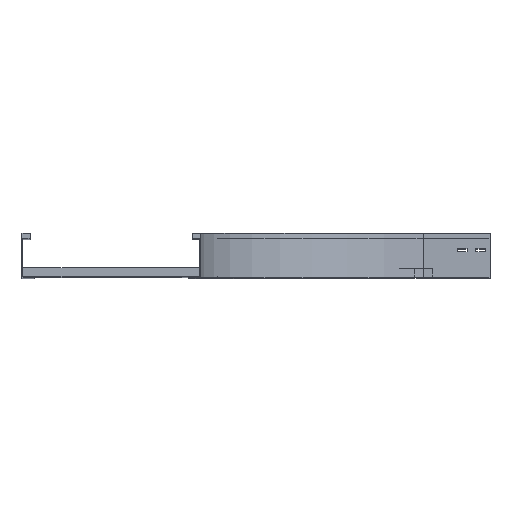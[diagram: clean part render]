
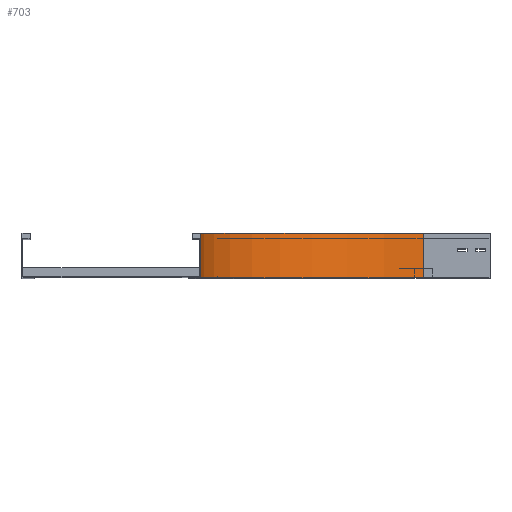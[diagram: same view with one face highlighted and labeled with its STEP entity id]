
A CAD part, top view. The second image highlights one B-rep face of the part: STEP entity #703.
In plain terms, the highlighted cylindrical face has radius 500 mm (diameter 1000 mm), a partial arc.
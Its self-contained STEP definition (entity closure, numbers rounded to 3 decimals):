
#172 = DIRECTION ( 'NONE',  ( 0., 0., -1. ) ) ;
#349 = ORIENTED_EDGE ( 'NONE', *, *, #3204, .T. ) ;
#359 = ORIENTED_EDGE ( 'NONE', *, *, #416, .F. ) ;
#416 = EDGE_CURVE ( 'NONE', #739, #1481, #3450, .T. ) ;
#577 = AXIS2_PLACEMENT_3D ( 'NONE', #1445, #3773, #172 ) ;
#703 = ADVANCED_FACE ( 'NONE', ( #3150 ), #1836, .F. ) ;
#739 = VERTEX_POINT ( 'NONE', #2826 ) ;
#792 = CARTESIAN_POINT ( 'NONE',  ( 500., 0., -150. ) ) ;
#805 = VECTOR ( 'NONE', #2772, 1000. ) ;
#810 = CARTESIAN_POINT ( 'NONE',  ( 500., 0., -650. ) ) ;
#1024 = ORIENTED_EDGE ( 'NONE', *, *, #1710, .T. ) ;
#1073 = CIRCLE ( 'NONE', #3847, 500. ) ;
#1083 = DIRECTION ( 'NONE',  ( 0., 1., 0. ) ) ;
#1146 = CIRCLE ( 'NONE', #3585, 500. ) ;
#1431 = CARTESIAN_POINT ( 'NONE',  ( 500., 0., -650. ) ) ;
#1445 = CARTESIAN_POINT ( 'NONE',  ( 500., 0., -150. ) ) ;
#1481 = VERTEX_POINT ( 'NONE', #2817 ) ;
#1710 = EDGE_CURVE ( 'NONE', #739, #3349, #1146, .T. ) ;
#1836 = CYLINDRICAL_SURFACE ( 'NONE', #577, 500. ) ;
#1908 = VERTEX_POINT ( 'NONE', #2558 ) ;
#2034 = DIRECTION ( 'NONE',  ( 0., -1., 0. ) ) ;
#2367 = DIRECTION ( 'NONE',  ( -1., 0., 0. ) ) ;
#2422 = VECTOR ( 'NONE', #1083, 1000. ) ;
#2503 = ORIENTED_EDGE ( 'NONE', *, *, #2740, .F. ) ;
#2558 = CARTESIAN_POINT ( 'NONE',  ( 500., 100., -650. ) ) ;
#2697 = CARTESIAN_POINT ( 'NONE',  ( 500., 100., -150. ) ) ;
#2740 = EDGE_CURVE ( 'NONE', #1481, #1908, #1073, .T. ) ;
#2772 = DIRECTION ( 'NONE',  ( 0., 1., 0. ) ) ;
#2817 = CARTESIAN_POINT ( 'NONE',  ( 0., 100., -150. ) ) ;
#2826 = CARTESIAN_POINT ( 'NONE',  ( 0., 0., -150. ) ) ;
#3094 = LINE ( 'NONE', #1431, #805 ) ;
#3111 = CARTESIAN_POINT ( 'NONE',  ( 0., 0., -150. ) ) ;
#3150 = FACE_OUTER_BOUND ( 'NONE', #3527, .T. ) ;
#3204 = EDGE_CURVE ( 'NONE', #3349, #1908, #3094, .T. ) ;
#3349 = VERTEX_POINT ( 'NONE', #810 ) ;
#3450 = LINE ( 'NONE', #3111, #2422 ) ;
#3464 = DIRECTION ( 'NONE',  ( 0., -1., 0. ) ) ;
#3527 = EDGE_LOOP ( 'NONE', ( #2503, #359, #1024, #349 ) ) ;
#3585 = AXIS2_PLACEMENT_3D ( 'NONE', #792, #3464, #4144 ) ;
#3773 = DIRECTION ( 'NONE',  ( 0., -1., 0. ) ) ;
#3847 = AXIS2_PLACEMENT_3D ( 'NONE', #2697, #2034, #2367 ) ;
#4144 = DIRECTION ( 'NONE',  ( -1., 0., 0. ) ) ;
